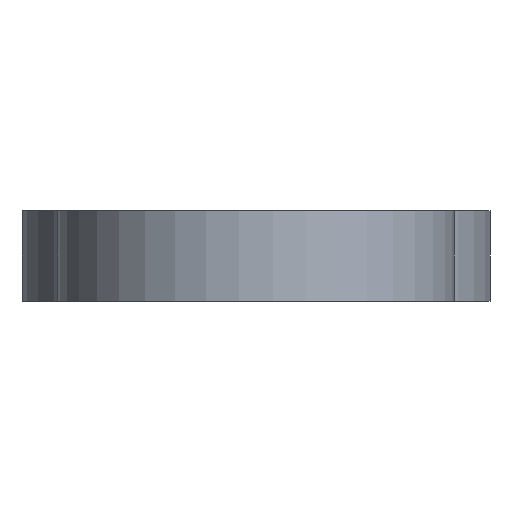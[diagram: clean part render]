
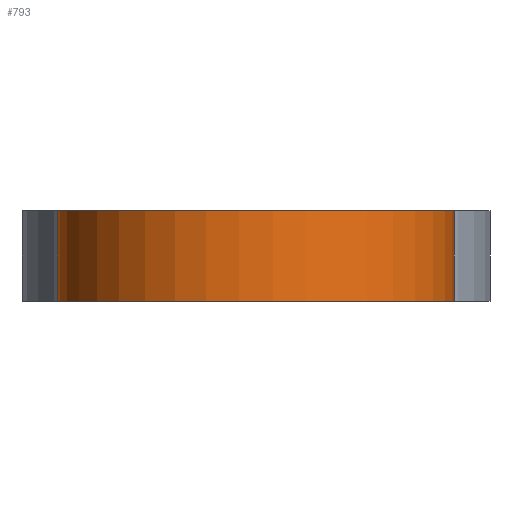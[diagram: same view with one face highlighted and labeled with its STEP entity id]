
A CAD part, left-side view. The second image highlights one B-rep face of the part: STEP entity #793.
In plain terms, the highlighted cylindrical face has radius 5.5 mm (diameter 11 mm), a partial arc.
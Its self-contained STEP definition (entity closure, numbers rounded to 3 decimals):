
#40 = EDGE_CURVE ( 'NONE', #156, #343, #495, .T. ) ;
#41 = ORIENTED_EDGE ( 'NONE', *, *, #40, .F. ) ;
#42 = VERTEX_POINT ( 'NONE', #691 ) ;
#47 = CYLINDRICAL_SURFACE ( 'NONE', #180, 5.5 ) ;
#56 = EDGE_CURVE ( 'NONE', #348, #42, #427, .T. ) ;
#58 = EDGE_LOOP ( 'NONE', ( #124, #650, #41, #717 ) ) ;
#72 = DIRECTION ( 'NONE',  ( 0., 0., 1. ) ) ;
#124 = ORIENTED_EDGE ( 'NONE', *, *, #56, .F. ) ;
#156 = VERTEX_POINT ( 'NONE', #507 ) ;
#180 = AXIS2_PLACEMENT_3D ( 'NONE', #440, #667, #830 ) ;
#247 = FACE_OUTER_BOUND ( 'NONE', #58, .T. ) ;
#272 = AXIS2_PLACEMENT_3D ( 'NONE', #327, #620, #689 ) ;
#275 = EDGE_CURVE ( 'NONE', #348, #343, #744, .T. ) ;
#327 = CARTESIAN_POINT ( 'NONE',  ( 0., 0., 2.5 ) ) ;
#343 = VERTEX_POINT ( 'NONE', #712 ) ;
#348 = VERTEX_POINT ( 'NONE', #490 ) ;
#424 = CARTESIAN_POINT ( 'NONE',  ( 2.837, -4.712, -4.529 ) ) ;
#427 = CIRCLE ( 'NONE', #955, 5.5 ) ;
#440 = CARTESIAN_POINT ( 'NONE',  ( 0., 0., -14.26 ) ) ;
#445 = CARTESIAN_POINT ( 'NONE',  ( 0., 0., 0. ) ) ;
#473 = VECTOR ( 'NONE', #677, 1000. ) ;
#490 = CARTESIAN_POINT ( 'NONE',  ( 2.837, -4.712, 0. ) ) ;
#495 = CIRCLE ( 'NONE', #272, 5.5 ) ;
#507 = CARTESIAN_POINT ( 'NONE',  ( 2.837, 4.712, 2.5 ) ) ;
#586 = DIRECTION ( 'NONE',  ( 1., 0., 0. ) ) ;
#620 = DIRECTION ( 'NONE',  ( 0., 0., 1. ) ) ;
#650 = ORIENTED_EDGE ( 'NONE', *, *, #275, .T. ) ;
#659 = DIRECTION ( 'NONE',  ( 0., 0., -1. ) ) ;
#667 = DIRECTION ( 'NONE',  ( 0., 0., 1. ) ) ;
#677 = DIRECTION ( 'NONE',  ( 0., 0., 1. ) ) ;
#689 = DIRECTION ( 'NONE',  ( 1., 0., 0. ) ) ;
#691 = CARTESIAN_POINT ( 'NONE',  ( 2.837, 4.712, 0. ) ) ;
#712 = CARTESIAN_POINT ( 'NONE',  ( 2.837, -4.712, 2.5 ) ) ;
#717 = ORIENTED_EDGE ( 'NONE', *, *, #848, .F. ) ;
#744 = LINE ( 'NONE', #424, #819 ) ;
#793 = ADVANCED_FACE ( 'NONE', ( #247 ), #47, .T. ) ;
#813 = LINE ( 'NONE', #908, #473 ) ;
#819 = VECTOR ( 'NONE', #72, 1000. ) ;
#830 = DIRECTION ( 'NONE',  ( 1., 0., 0. ) ) ;
#848 = EDGE_CURVE ( 'NONE', #42, #156, #813, .T. ) ;
#908 = CARTESIAN_POINT ( 'NONE',  ( 2.837, 4.712, -4.529 ) ) ;
#955 = AXIS2_PLACEMENT_3D ( 'NONE', #445, #659, #586 ) ;
